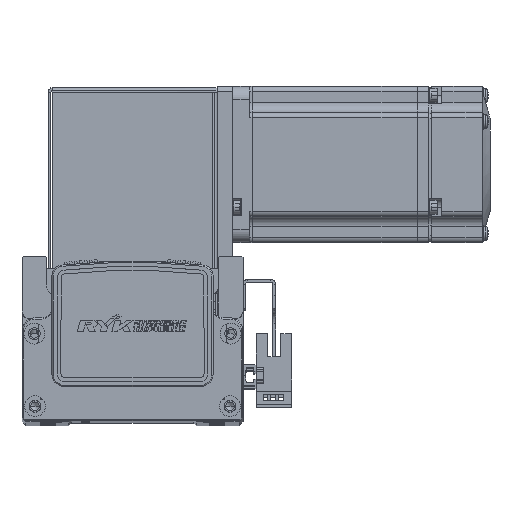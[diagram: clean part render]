
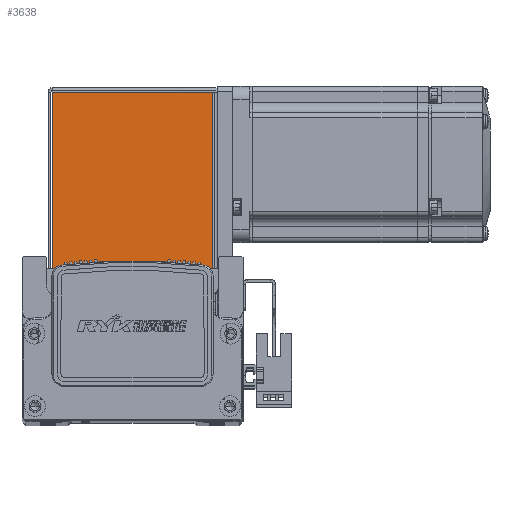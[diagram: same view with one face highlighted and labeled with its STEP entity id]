
A CAD part, top view. The second image highlights one B-rep face of the part: STEP entity #3638.
In plain terms, the highlighted planar face has unit normal (0, 0, 1) as drawn and (0, 0, -1) by its records, which use the part's own axes.
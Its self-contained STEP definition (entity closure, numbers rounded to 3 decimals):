
#3638 = ADVANCED_FACE ( 'NONE', ( #31691 ), #56186, .F. ) ;
#22749 = VERTEX_POINT ( 'NONE', #50137 ) ;
#22751 = VERTEX_POINT ( 'NONE', #50133 ) ;
#22840 = VERTEX_POINT ( 'NONE', #50222 ) ;
#22878 = VERTEX_POINT ( 'NONE', #50339 ) ;
#29930 = CARTESIAN_POINT ( 'NONE',  ( 0., 68.5, -35. ) ) ;
#30084 = DIRECTION ( 'NONE',  ( 1., 0., 0. ) ) ;
#30114 = CARTESIAN_POINT ( 'NONE',  ( -30.793, 0., -35. ) ) ;
#30126 = DIRECTION ( 'NONE',  ( 0., 1., 0. ) ) ;
#30161 = CARTESIAN_POINT ( 'NONE',  ( 32.5, 0.737, -35. ) ) ;
#30163 = DIRECTION ( 'NONE',  ( 1., 0., 0. ) ) ;
#30318 = DIRECTION ( 'NONE',  ( 0., -1., 0. ) ) ;
#30340 = CARTESIAN_POINT ( 'NONE',  ( 30.763, 68.5, -35. ) ) ;
#31691 = FACE_OUTER_BOUND ( 'NONE', #60575, .T. ) ;
#32366 = AXIS2_PLACEMENT_3D ( 'NONE', #56126, #56152, #56139 ) ;
#35413 = VECTOR ( 'NONE', #30084, 1000. ) ;
#35426 = LINE ( 'NONE', #29930, #35413 ) ;
#35447 = LINE ( 'NONE', #30161, #35494 ) ;
#35462 = LINE ( 'NONE', #30340, #35479 ) ;
#35470 = LINE ( 'NONE', #30114, #35514 ) ;
#35479 = VECTOR ( 'NONE', #30318, 1000. ) ;
#35494 = VECTOR ( 'NONE', #30163, 1000. ) ;
#35514 = VECTOR ( 'NONE', #30126, 1000. ) ;
#47017 = ORIENTED_EDGE ( 'NONE', *, *, #67446, .F. ) ;
#47034 = ORIENTED_EDGE ( 'NONE', *, *, #67467, .T. ) ;
#47053 = ORIENTED_EDGE ( 'NONE', *, *, #67414, .T. ) ;
#47061 = ORIENTED_EDGE ( 'NONE', *, *, #67449, .T. ) ;
#50133 = CARTESIAN_POINT ( 'NONE',  ( -30.793, 68.5, -35. ) ) ;
#50137 = CARTESIAN_POINT ( 'NONE',  ( 30.763, 68.5, -35. ) ) ;
#50222 = CARTESIAN_POINT ( 'NONE',  ( -30.793, 0.737, -35. ) ) ;
#50339 = CARTESIAN_POINT ( 'NONE',  ( 30.763, 0.737, -35. ) ) ;
#56126 = CARTESIAN_POINT ( 'NONE',  ( 0., 0., -35. ) ) ;
#56139 = DIRECTION ( 'NONE',  ( 0., -1., 0. ) ) ;
#56152 = DIRECTION ( 'NONE',  ( 0., 0., 1. ) ) ;
#56186 = PLANE ( 'NONE',  #32366 ) ;
#60575 = EDGE_LOOP ( 'NONE', ( #47034, #47017, #47061, #47053 ) ) ;
#67414 = EDGE_CURVE ( 'NONE', #22751, #22749, #35426, .T. ) ;
#67446 = EDGE_CURVE ( 'NONE', #22840, #22878, #35447, .T. ) ;
#67449 = EDGE_CURVE ( 'NONE', #22840, #22751, #35470, .T. ) ;
#67467 = EDGE_CURVE ( 'NONE', #22749, #22878, #35462, .T. ) ;
